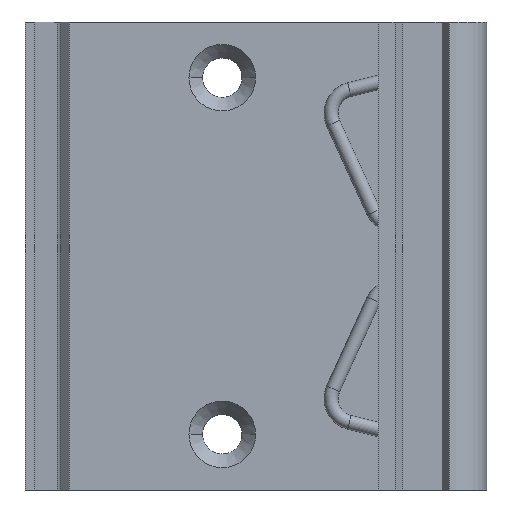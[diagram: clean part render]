
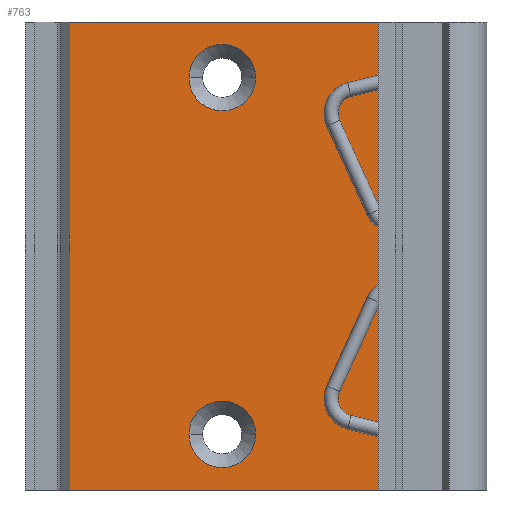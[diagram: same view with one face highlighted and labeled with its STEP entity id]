
A CAD part, left-side view. The second image highlights one B-rep face of the part: STEP entity #763.
In plain terms, the highlighted planar face has unit normal (-1, 0, 0).
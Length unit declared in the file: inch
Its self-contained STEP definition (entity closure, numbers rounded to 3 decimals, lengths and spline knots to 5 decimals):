
#38=DIRECTION('',(0.,1.,0.));
#39=VECTOR('',#38,1.3005);
#40=CARTESIAN_POINT('',(-0.08,0.455,-0.98425));
#41=LINE('',#40,#39);
#144=DIRECTION('',(0.,0.,1.));
#145=VECTOR('',#144,1.9685);
#146=CARTESIAN_POINT('',(-0.08,1.7555,-0.98425));
#147=LINE('',#146,#145);
#148=DIRECTION('',(0.,0.,1.));
#149=VECTOR('',#148,1.9685);
#150=CARTESIAN_POINT('',(-0.08,0.455,-0.98425));
#151=LINE('',#150,#149);
#152=CARTESIAN_POINT('',(-0.08,1.112,-0.75));
#153=DIRECTION('',(1.,0.,0.));
#154=DIRECTION('',(0.,-1.,0.));
#155=AXIS2_PLACEMENT_3D('',#152,#153,#154);
#157=CARTESIAN_POINT('',(-0.08,1.112,-0.75));
#158=DIRECTION('',(1.,0.,0.));
#159=DIRECTION('',(0.,1.,0.));
#160=AXIS2_PLACEMENT_3D('',#157,#158,#159);
#162=CARTESIAN_POINT('',(-0.08,1.112,0.75));
#163=DIRECTION('',(-1.,0.,0.));
#164=DIRECTION('',(0.,-1.,0.));
#165=AXIS2_PLACEMENT_3D('',#162,#163,#164);
#167=CARTESIAN_POINT('',(-0.08,1.112,0.75));
#168=DIRECTION('',(-1.,0.,0.));
#169=DIRECTION('',(0.,1.,0.));
#170=AXIS2_PLACEMENT_3D('',#167,#168,#169);
#212=DIRECTION('',(0.,1.,0.));
#213=VECTOR('',#212,1.3005);
#214=CARTESIAN_POINT('',(-0.08,0.455,0.98425));
#215=LINE('',#214,#213);
#409=CARTESIAN_POINT('',(-0.08,0.455,-0.98425));
#410=VERTEX_POINT('',#409);
#421=CARTESIAN_POINT('',(-0.08,0.455,0.98425));
#422=VERTEX_POINT('',#421);
#427=CARTESIAN_POINT('',(-0.08,1.7555,-0.98425));
#429=VERTEX_POINT('',#427);
#435=CARTESIAN_POINT('',(-0.08,1.7555,0.98425));
#437=VERTEX_POINT('',#435);
#479=CARTESIAN_POINT('',(-0.08,0.972,-0.75));
#480=CARTESIAN_POINT('',(-0.08,1.252,-0.75));
#481=VERTEX_POINT('',#479);
#482=VERTEX_POINT('',#480);
#488=CARTESIAN_POINT('',(-0.08,0.972,0.75));
#490=VERTEX_POINT('',#488);
#492=CARTESIAN_POINT('',(-0.08,1.252,0.75));
#494=VERTEX_POINT('',#492);
#739=CARTESIAN_POINT('',(-0.08,0.455,0.98425));
#740=DIRECTION('',(1.,0.,0.));
#741=DIRECTION('',(0.,1.,0.));
#742=AXIS2_PLACEMENT_3D('',#739,#740,#741);
#743=PLANE('',#742);
#744=ORIENTED_EDGE('',*,*,#514,.T.);
#746=ORIENTED_EDGE('',*,*,#745,.F.);
#747=ORIENTED_EDGE('',*,*,#731,.F.);
#748=ORIENTED_EDGE('',*,*,#543,.T.);
#749=EDGE_LOOP('',(#744,#746,#747,#748));
#750=FACE_OUTER_BOUND('',#749,.F.);
#752=ORIENTED_EDGE('',*,*,#751,.F.);
#754=ORIENTED_EDGE('',*,*,#753,.F.);
#755=EDGE_LOOP('',(#752,#754));
#756=FACE_BOUND('',#755,.F.);
#758=ORIENTED_EDGE('',*,*,#757,.T.);
#760=ORIENTED_EDGE('',*,*,#759,.T.);
#761=EDGE_LOOP('',(#758,#760));
#762=FACE_BOUND('',#761,.F.);
#763=ADVANCED_FACE('',(#750,#756,#762),#743,.F.);
#156=CIRCLE('',#155,0.14);
#161=CIRCLE('',#160,0.14);
#166=CIRCLE('',#165,0.14);
#171=CIRCLE('',#170,0.14);
#514=EDGE_CURVE('',#429,#437,#147,.T.);
#543=EDGE_CURVE('',#410,#429,#41,.T.);
#731=EDGE_CURVE('',#410,#422,#151,.T.);
#745=EDGE_CURVE('',#422,#437,#215,.T.);
#751=EDGE_CURVE('',#481,#482,#156,.T.);
#753=EDGE_CURVE('',#482,#481,#161,.T.);
#757=EDGE_CURVE('',#490,#494,#166,.T.);
#759=EDGE_CURVE('',#494,#490,#171,.T.);
